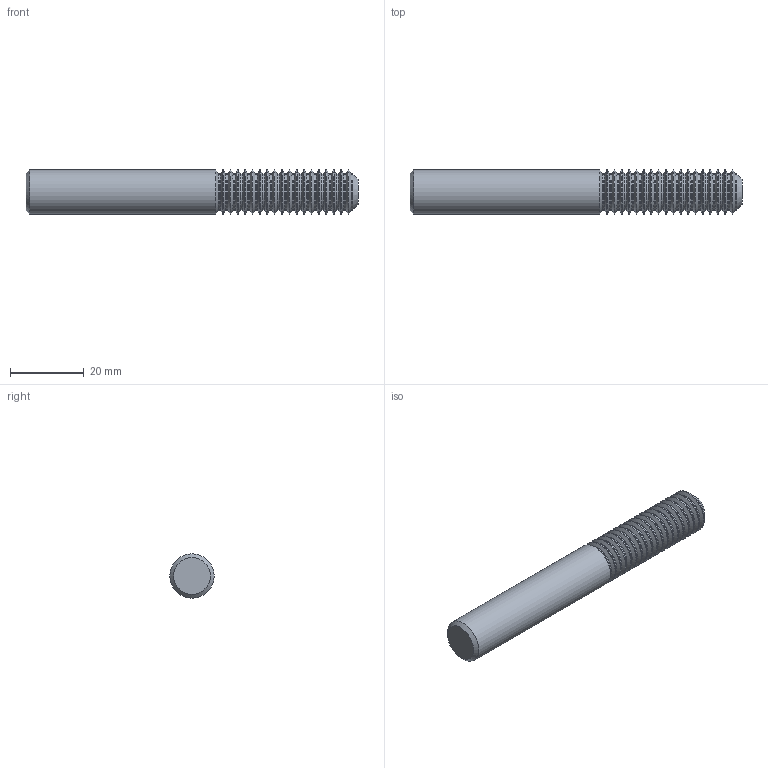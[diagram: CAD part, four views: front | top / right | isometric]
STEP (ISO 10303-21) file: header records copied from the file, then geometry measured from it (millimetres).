
FILE_DESCRIPTION(/* description */ (''),/* implementation_level */ '2;1');
FILE_NAME(/* name */ '00036254-TDM',/* time_stamp */ '2024-02-12T10:24:48+01:00',/* author */ (''),/* organization */ (''),/* preprocessor_version */ 'ST-DEVELOPER v16.5',/* originating_system */ 'HiCAD 2017 2201.0 Build 268',/* authorisation */ '');
FILE_SCHEMA (('AUTOMOTIVE_DESIGN { 1 0 10303 214 1 1 1 1 }'));
Length unit declared in the file: millimetre
Products named in the file (3): Root; ROTATIONSTEIL_0
Assembly tree (2 placements, depth 3):
  Root
    ROTATIONSTEIL_0
      ROTATIONSTEIL_0
Bounding box: 90 x 12 x 12 mm (x, y, z)
Volume: 9214 mm3; surface area: 4266 mm2
Topology: 2 solids, 2 shells, 119 faces, 234 edges, 119 vertices
Faces by surface type: cone 39, cylinder 39, torus 37, plane 4
Full cylindrical faces by diameter (mm): 9.834 x20, 11.95 x18, 12 x1
Entity records: 3594 total; most frequent: DIRECTION 480, CARTESIAN_POINT 357, AXIS2_PLACEMENT_3D 240, PRESENTATION_STYLE_ASSIGNMENT 236, COLOUR_RGB 236, DRAUGHTING_PRE_DEFINED_CURVE_FONT 234, CURVE_STYLE 234, OVER_RIDING_STYLED_ITEM 234
